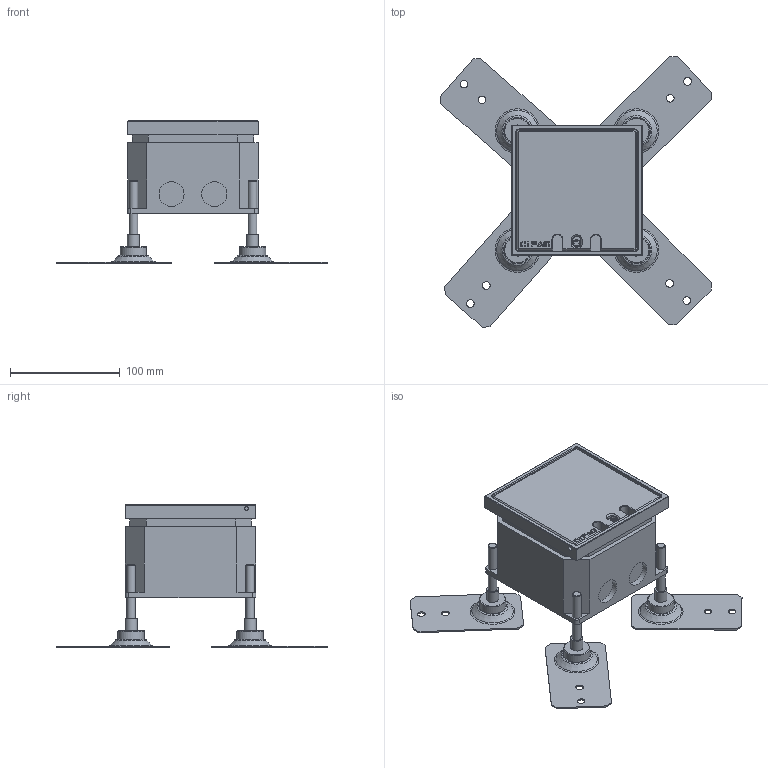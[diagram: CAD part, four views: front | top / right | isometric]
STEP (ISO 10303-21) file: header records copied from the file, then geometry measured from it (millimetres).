
FILE_DESCRIPTION(/* description */ (''),/* implementation_level */ '2;1');
FILE_NAME(/* name */ 'K:\Inventor\Dummy Zeichnungen Bodendosen\FONTO.4301.CLOSE.stp',/* time_stamp */ '2019-05-08T10:24:51+02:00',/* author */ ('mayrhofer'),/* organization */ (''),/* preprocessor_version */ 'ST-DEVELOPER v17.2',/* originating_system */ 'Autodesk Inventor 2019',/* authorisation */ '');
FILE_SCHEMA (('AUTOMOTIVE_DESIGN { 1 0 10303 214 3 1 1 }'));
Length unit declared in the file: millimetre
Products named in the file (7): FONTO.4301; Kokille_42xx43xx; Nivellierfuß; Deckel_4301; 1533631_3DINV; BS 4183 - M5 x 6; 309.LEG.45°.BS.MOSAIC.WEISS.2MOD.
Assembly tree (11 placements, depth 2):
  FONTO.4301
    Kokille_42xx43xx
    Nivellierfuß  x4
    Deckel_4301
    1533631_3DINV
    BS 4183 - M5 x 6  x2
    309.LEG.45°.BS.MOSAIC.WEISS.2MOD.  x2
Bounding box: 247.79 x 246.79 x 130.2 mm (x, y, z)
Volume: 749688.5 mm3; surface area: 220686.8 mm2
Topology: 11 solids, 11 shells, 576 faces, 1448 edges, 946 vertices
Faces by surface type: plane 339, cylinder 129, cone 52, torus 37, bspline 15, sphere 4
Full cylindrical faces by diameter (mm): 0.1 x2, 3.5 x14, 4.019 x2, 5 x6, 6 x2, 6.647 x4, 6.7 x1, 7 x8, 8 x4, 8.75 x2, 11 x4, 22.835 x2, 24 x4, 39 x2
Entity records: 12187 total; most frequent: CARTESIAN_POINT 2531, ORIENTED_EDGE 1940, DIRECTION 1916, EDGE_CURVE 970, AXIS2_PLACEMENT_3D 641, VERTEX_POINT 635, LINE 634, VECTOR 634
